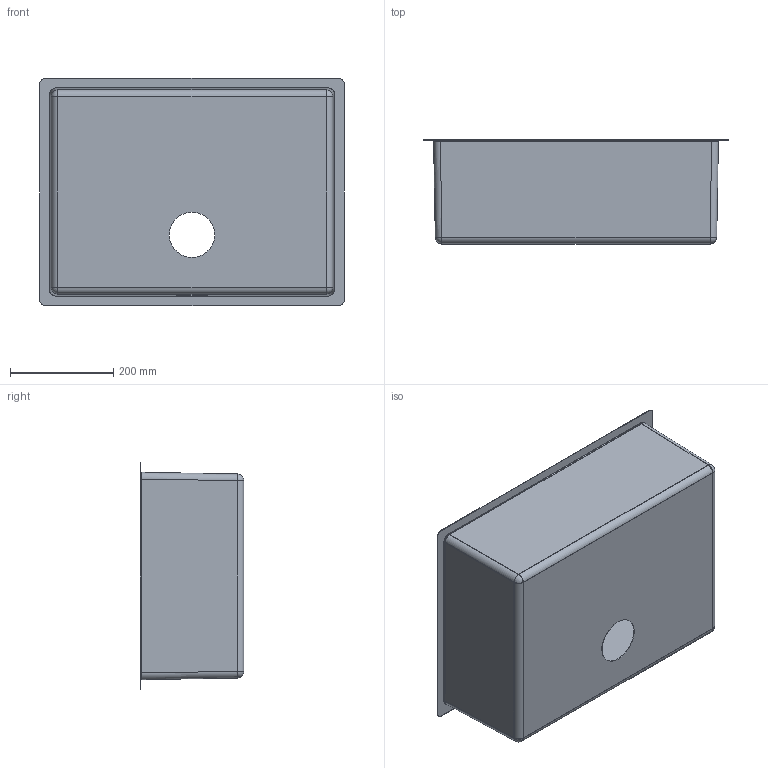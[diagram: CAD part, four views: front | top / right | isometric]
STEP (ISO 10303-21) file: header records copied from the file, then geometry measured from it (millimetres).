
FILE_DESCRIPTION (( 'STEP AP214' ), '1' );
FILE_NAME ('Morath Becken AR12-55 (SER 55).STEP', '2023-02-13T12:56:56', ( '' ), ( '' ), 'SwSTEP 2.0', 'SolidWorks 2022', '' );
FILE_SCHEMA (( 'AUTOMOTIVE_DESIGN' ));
Length unit declared in the file: millimetre
Products named in the file (1): Morath Becken AR12-55 (SER 55)
Bounding box: 590 x 201 x 440 mm (x, y, z)
Volume: 608411.7 mm3; surface area: 1219301 mm2
Topology: 1 solids, 1 shells, 74 faces, 178 edges, 100 vertices
Faces by surface type: cylinder 34, plane 20, bspline 12, sphere 8
Entity records: 2296 total; most frequent: CARTESIAN_POINT 693, ORIENTED_EDGE 340, DIRECTION 320, EDGE_CURVE 170, AXIS2_PLACEMENT_3D 119, VERTEX_POINT 100, VECTOR 82, LINE 82
